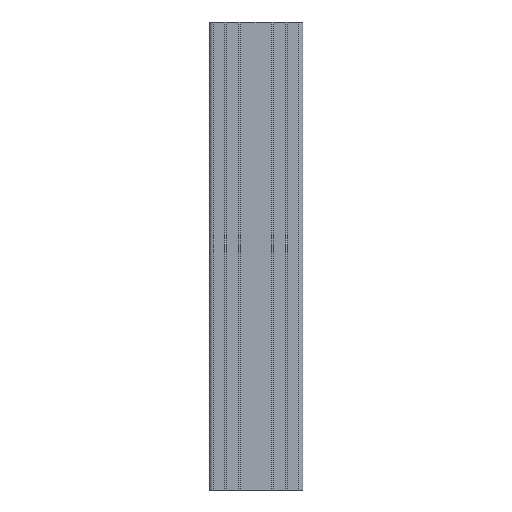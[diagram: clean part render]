
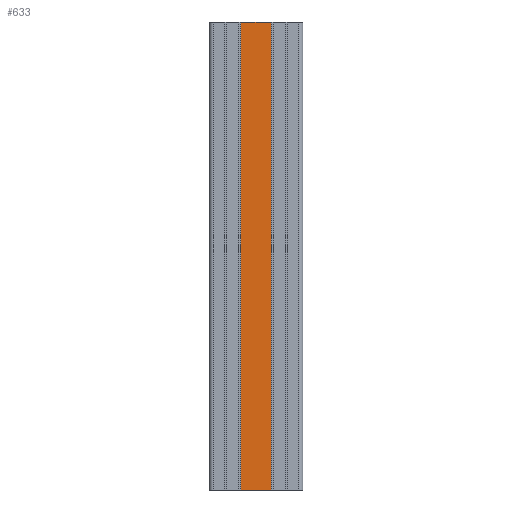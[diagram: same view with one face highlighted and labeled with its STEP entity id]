
A CAD part, front view. The second image highlights one B-rep face of the part: STEP entity #633.
In plain terms, the highlighted planar face has unit normal (0, -1, 0).
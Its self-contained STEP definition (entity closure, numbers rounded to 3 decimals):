
#62 = LINE ( 'NONE', #3567, #345 ) ;
#143 = VECTOR ( 'NONE', #2805, 1000. ) ;
#229 = DIRECTION ( 'NONE',  ( 0., 0., -1. ) ) ;
#283 = EDGE_LOOP ( 'NONE', ( #539, #377, #3573, #2258 ) ) ;
#345 = VECTOR ( 'NONE', #3175, 1000. ) ;
#355 = DIRECTION ( 'NONE',  ( 0., 0., 1. ) ) ;
#377 = ORIENTED_EDGE ( 'NONE', *, *, #2631, .F. ) ;
#539 = ORIENTED_EDGE ( 'NONE', *, *, #2167, .T. ) ;
#548 = CARTESIAN_POINT ( 'NONE',  ( 9.9, -15., 150. ) ) ;
#631 = CARTESIAN_POINT ( 'NONE',  ( 9.9, -15., 150. ) ) ;
#633 = ADVANCED_FACE ( 'NONE', ( #2244 ), #1558, .F. ) ;
#759 = DIRECTION ( 'NONE',  ( 0., 1., 0. ) ) ;
#797 = VECTOR ( 'NONE', #229, 1000. ) ;
#855 = VERTEX_POINT ( 'NONE', #1840 ) ;
#1158 = CARTESIAN_POINT ( 'NONE',  ( -9.9, -15., 150. ) ) ;
#1228 = EDGE_CURVE ( 'NONE', #1848, #2665, #1836, .T. ) ;
#1479 = EDGE_CURVE ( 'NONE', #1848, #1781, #3596, .T. ) ;
#1558 = PLANE ( 'NONE',  #2198 ) ;
#1664 = VECTOR ( 'NONE', #1741, 1000. ) ;
#1741 = DIRECTION ( 'NONE',  ( 0., 0., -1. ) ) ;
#1781 = VERTEX_POINT ( 'NONE', #548 ) ;
#1836 = LINE ( 'NONE', #2136, #1664 ) ;
#1840 = CARTESIAN_POINT ( 'NONE',  ( 9.9, -15., -150. ) ) ;
#1841 = LINE ( 'NONE', #631, #797 ) ;
#1848 = VERTEX_POINT ( 'NONE', #3288 ) ;
#2136 = CARTESIAN_POINT ( 'NONE',  ( -9.9, -15., 150. ) ) ;
#2167 = EDGE_CURVE ( 'NONE', #2665, #855, #62, .T. ) ;
#2198 = AXIS2_PLACEMENT_3D ( 'NONE', #1158, #759, #355 ) ;
#2244 = FACE_OUTER_BOUND ( 'NONE', #283, .T. ) ;
#2258 = ORIENTED_EDGE ( 'NONE', *, *, #1228, .T. ) ;
#2546 = CARTESIAN_POINT ( 'NONE',  ( -9.9, -15., -150. ) ) ;
#2631 = EDGE_CURVE ( 'NONE', #1781, #855, #1841, .T. ) ;
#2665 = VERTEX_POINT ( 'NONE', #2546 ) ;
#2805 = DIRECTION ( 'NONE',  ( 1., 0., 0. ) ) ;
#3175 = DIRECTION ( 'NONE',  ( 1., 0., 0. ) ) ;
#3203 = CARTESIAN_POINT ( 'NONE',  ( -9.9, -15., 150. ) ) ;
#3288 = CARTESIAN_POINT ( 'NONE',  ( -9.9, -15., 150. ) ) ;
#3567 = CARTESIAN_POINT ( 'NONE',  ( -9.9, -15., -150. ) ) ;
#3573 = ORIENTED_EDGE ( 'NONE', *, *, #1479, .F. ) ;
#3596 = LINE ( 'NONE', #3203, #143 ) ;
